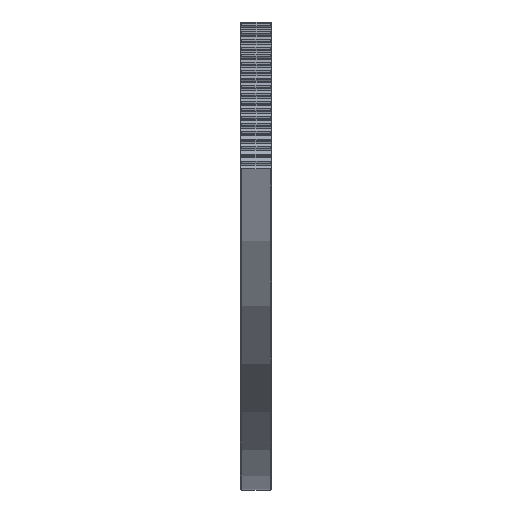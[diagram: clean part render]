
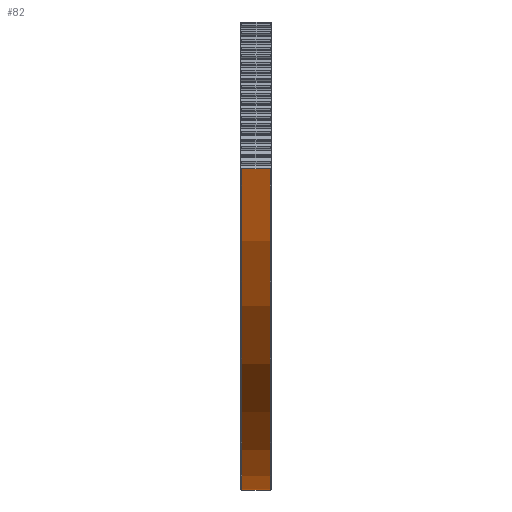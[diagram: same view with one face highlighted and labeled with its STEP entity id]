
A CAD part, left-side view. The second image highlights one B-rep face of the part: STEP entity #82.
In plain terms, the highlighted cylindrical face has radius 241.25 mm (diameter 482.5 mm), a partial arc.
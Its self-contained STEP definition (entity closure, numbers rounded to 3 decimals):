
#82 = ADVANCED_FACE( '', ( #243 ), #244, .T. );
#243 = FACE_OUTER_BOUND( '', #589, .T. );
#244 = CYLINDRICAL_SURFACE( '', #590, 241.25 );
#589 = EDGE_LOOP( '', ( #984, #985, #986, #987 ) );
#590 = AXIS2_PLACEMENT_3D( '', #988, #989, #990 );
#984 = ORIENTED_EDGE( '', *, *, #2233, .F. );
#985 = ORIENTED_EDGE( '', *, *, #2242, .T. );
#986 = ORIENTED_EDGE( '', *, *, #2243, .T. );
#987 = ORIENTED_EDGE( '', *, *, #2214, .T. );
#988 = CARTESIAN_POINT( '', ( 0., 0., 0. ) );
#989 = DIRECTION( '', ( 0., 1., 0. ) );
#990 = DIRECTION( '', ( 0., 0., -1. ) );
#2214 = EDGE_CURVE( '', #2636, #2634, #2637, .T. );
#2233 = EDGE_CURVE( '', #2668, #2634, #2670, .T. );
#2242 = EDGE_CURVE( '', #2668, #2687, #2688, .F. );
#2243 = EDGE_CURVE( '', #2687, #2636, #2689, .T. );
#2634 = VERTEX_POINT( '', #3350 );
#2636 = VERTEX_POINT( '', #3355 );
#2637 = LINE( '', #3356, #3357 );
#2668 = VERTEX_POINT( '', #3417 );
#2670 = CIRCLE( '', #3422, 241.25 );
#2687 = VERTEX_POINT( '', #3451 );
#2688 = LINE( '', #3452, #3453 );
#2689 = CIRCLE( '', #3454, 241.25 );
#3350 = CARTESIAN_POINT( '', ( 241.237, 0.5, -2.5 ) );
#3355 = CARTESIAN_POINT( '', ( 241.237, 15., -2.5 ) );
#3356 = CARTESIAN_POINT( '', ( 241.237, 0., -2.5 ) );
#3357 = VECTOR( '', #4461, 1000. );
#3417 = CARTESIAN_POINT( '', ( -228.568, 0.5, -77.188 ) );
#3422 = AXIS2_PLACEMENT_3D( '', #4482, #4483, #4484 );
#3451 = CARTESIAN_POINT( '', ( -228.568, 15., -77.188 ) );
#3452 = CARTESIAN_POINT( '', ( -228.568, 0., -77.188 ) );
#3453 = VECTOR( '', #4497, 1000. );
#3454 = AXIS2_PLACEMENT_3D( '', #4498, #4499, #4500 );
#4461 = DIRECTION( '', ( 0., -1., 0. ) );
#4482 = CARTESIAN_POINT( '', ( 0., 0.5, 0. ) );
#4483 = DIRECTION( '', ( 0., -1., 0. ) );
#4484 = DIRECTION( '', ( 0., 0., -1. ) );
#4497 = DIRECTION( '', ( 0., -1., 0. ) );
#4498 = CARTESIAN_POINT( '', ( 0., 15., 0. ) );
#4499 = DIRECTION( '', ( 0., -1., 0. ) );
#4500 = DIRECTION( '', ( 0., 0., -1. ) );
